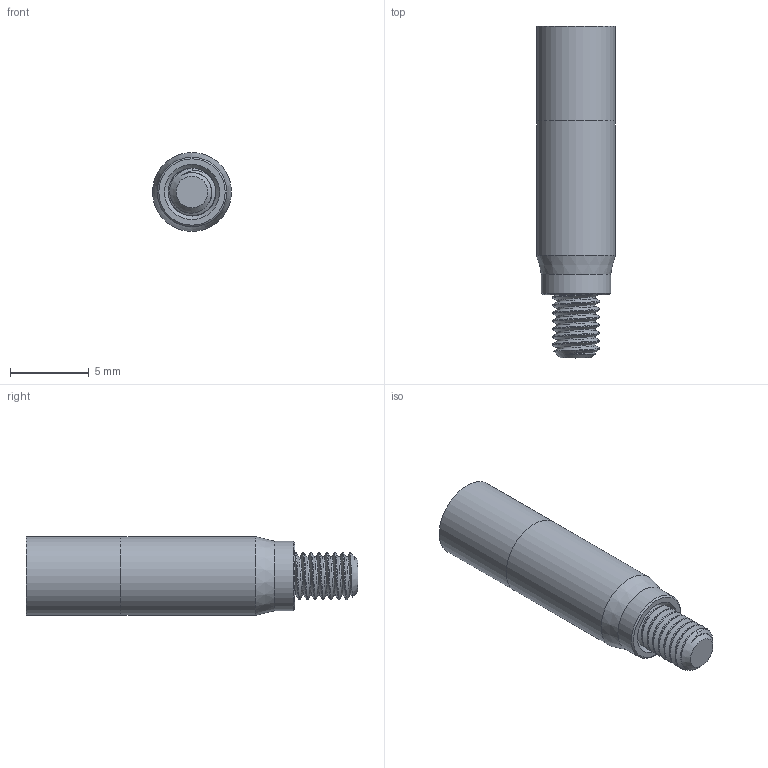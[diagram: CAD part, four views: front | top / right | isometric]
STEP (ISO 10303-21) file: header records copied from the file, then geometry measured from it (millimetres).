
FILE_DESCRIPTION (( 'STEP AP214' ), '1' );
FILE_NAME ('DAPF-5.STEP', '2018-10-09T18:08:40', ( '' ), ( '' ), 'SwSTEP 2.0', 'SolidWorks 2017', '' );
FILE_SCHEMA (( 'AUTOMOTIVE_DESIGN' ));
Length unit declared in the file: millimetre
Products named in the file (3): Schraube-M3; DAP-5; DAPF-5
Assembly tree (2 placements, depth 2):
  DAPF-5
    DAP-5
    Schraube-M3
Bounding box: 5 x 21.01 x 5 mm (x, y, z)
Volume: 304.8 mm3; surface area: 545.1 mm2
Topology: 3 solids, 3 shells, 107 faces, 273 edges, 181 vertices
Faces by surface type: plane 53, cylinder 41, cone 7, bspline 6
Full cylindrical faces by diameter (mm): 2.5 x6, 3.1 x1, 4.4 x1, 5 x2
Entity records: 8732 total; most frequent: CARTESIAN_POINT 6357, ORIENTED_EDGE 470, DIRECTION 360, EDGE_CURVE 235, VERTEX_POINT 161, LINE 132, VECTOR 132, EDGE_LOOP 120
